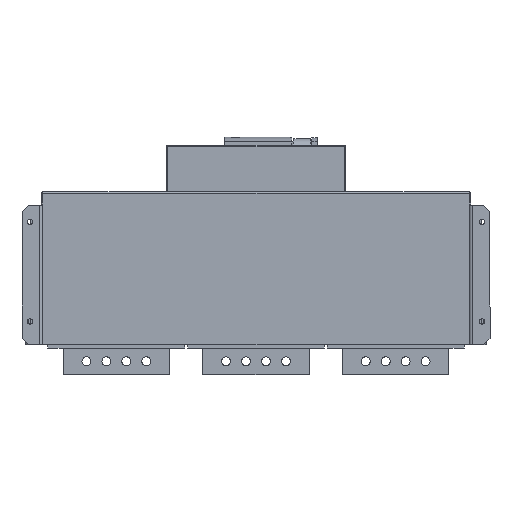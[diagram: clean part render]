
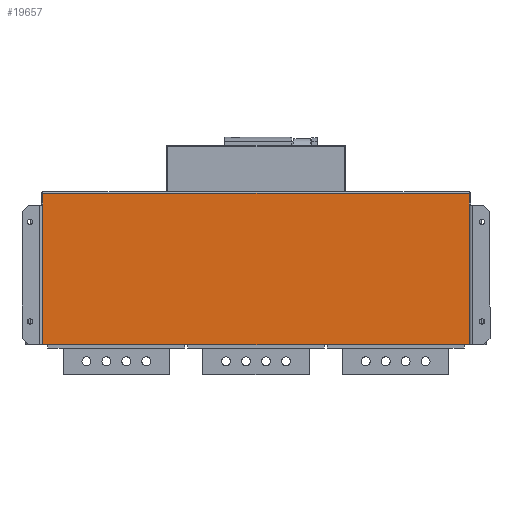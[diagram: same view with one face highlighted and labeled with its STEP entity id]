
A CAD part, front view. The second image highlights one B-rep face of the part: STEP entity #19657.
In plain terms, the highlighted planar face has unit normal (0, -1, 0).
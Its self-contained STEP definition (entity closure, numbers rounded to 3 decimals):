
#495 = EDGE_CURVE ( 'NONE', #49944, #20665, #21788, .T. ) ;
#501 = ORIENTED_EDGE ( 'NONE', *, *, #495, .T. ) ;
#12981 = CARTESIAN_POINT ( 'NONE',  ( -321., -185., 0. ) ) ;
#12984 = DIRECTION ( 'NONE',  ( 1., 0., 0. ) ) ;
#12985 = VECTOR ( 'NONE', #12984, 1000. ) ;
#12987 = CARTESIAN_POINT ( 'NONE',  ( -324., -185., 0. ) ) ;
#12989 = LINE ( 'NONE', #12987, #12985 ) ;
#12994 = CARTESIAN_POINT ( 'NONE',  ( 321., -185., 0. ) ) ;
#19409 = EDGE_CURVE ( 'NONE', #20665, #19663, #34164, .T. ) ;
#19410 = ORIENTED_EDGE ( 'NONE', *, *, #19409, .T. ) ;
#19657 = ADVANCED_FACE ( 'NONE', ( #34943 ), #34928, .F. ) ;
#19658 = EDGE_LOOP ( 'NONE', ( #19660, #19668, #19673, #19677, #501, #19410 ) ) ;
#19660 = ORIENTED_EDGE ( 'NONE', *, *, #19662, .T. ) ;
#19662 = EDGE_CURVE ( 'NONE', #19663, #19665, #34975, .T. ) ;
#19663 = VERTEX_POINT ( 'NONE', #34971 ) ;
#19665 = VERTEX_POINT ( 'NONE', #34970 ) ;
#19668 = ORIENTED_EDGE ( 'NONE', *, *, #19669, .T. ) ;
#19669 = EDGE_CURVE ( 'NONE', #19665, #19671, #35007, .T. ) ;
#19671 = VERTEX_POINT ( 'NONE', #35003 ) ;
#19673 = ORIENTED_EDGE ( 'NONE', *, *, #19675, .F. ) ;
#19675 = EDGE_CURVE ( 'NONE', #49947, #19671, #34998, .T. ) ;
#19677 = ORIENTED_EDGE ( 'NONE', *, *, #49946, .T. ) ;
#20665 = VERTEX_POINT ( 'NONE', #37699 ) ;
#21785 = DIRECTION ( 'NONE',  ( 0., 0., 1. ) ) ;
#21786 = VECTOR ( 'NONE', #21785, 1000. ) ;
#21787 = CARTESIAN_POINT ( 'NONE',  ( 321., -185., 0. ) ) ;
#21788 = LINE ( 'NONE', #21787, #21786 ) ;
#34161 = DIRECTION ( 'NONE',  ( 0., 0., 1. ) ) ;
#34162 = VECTOR ( 'NONE', #34161, 1000. ) ;
#34163 = CARTESIAN_POINT ( 'NONE',  ( 321., -185., 230. ) ) ;
#34164 = LINE ( 'NONE', #34163, #34162 ) ;
#34923 = DIRECTION ( 'NONE',  ( -1., 0., 0. ) ) ;
#34924 = DIRECTION ( 'NONE',  ( 0., 1., 0. ) ) ;
#34925 = CARTESIAN_POINT ( 'NONE',  ( -324., -185., 230. ) ) ;
#34926 = AXIS2_PLACEMENT_3D ( 'NONE', #34925, #34924, #34923 ) ;
#34928 = PLANE ( 'NONE',  #34926 ) ;
#34943 = FACE_OUTER_BOUND ( 'NONE', #19658, .T. ) ;
#34970 = CARTESIAN_POINT ( 'NONE',  ( -321., -185., 228. ) ) ;
#34971 = CARTESIAN_POINT ( 'NONE',  ( 321., -185., 228. ) ) ;
#34972 = DIRECTION ( 'NONE',  ( -1., 0., 0. ) ) ;
#34973 = VECTOR ( 'NONE', #34972, 1000. ) ;
#34974 = CARTESIAN_POINT ( 'NONE',  ( -323., -185., 228. ) ) ;
#34975 = LINE ( 'NONE', #34974, #34973 ) ;
#34995 = DIRECTION ( 'NONE',  ( 0., 0., 1. ) ) ;
#34996 = VECTOR ( 'NONE', #34995, 1000. ) ;
#34997 = CARTESIAN_POINT ( 'NONE',  ( -321., -185., 0. ) ) ;
#34998 = LINE ( 'NONE', #34997, #34996 ) ;
#35003 = CARTESIAN_POINT ( 'NONE',  ( -321., -185., 210. ) ) ;
#35004 = DIRECTION ( 'NONE',  ( 0., 0., -1. ) ) ;
#35005 = VECTOR ( 'NONE', #35004, 1000. ) ;
#35006 = CARTESIAN_POINT ( 'NONE',  ( -321., -185., 230. ) ) ;
#35007 = LINE ( 'NONE', #35006, #35005 ) ;
#37699 = CARTESIAN_POINT ( 'NONE',  ( 321., -185., 210. ) ) ;
#49944 = VERTEX_POINT ( 'NONE', #12994 ) ;
#49946 = EDGE_CURVE ( 'NONE', #49947, #49944, #12989, .T. ) ;
#49947 = VERTEX_POINT ( 'NONE', #12981 ) ;
